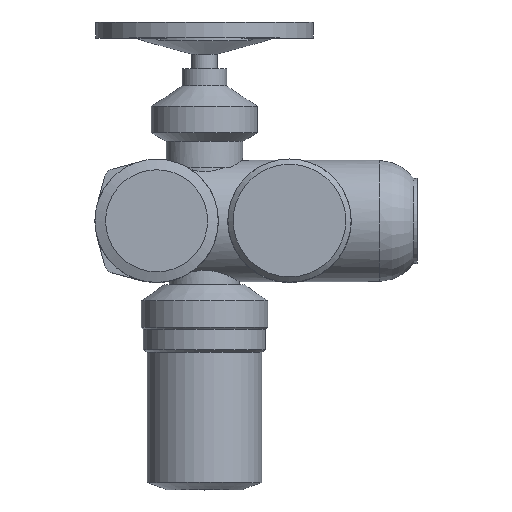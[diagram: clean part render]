
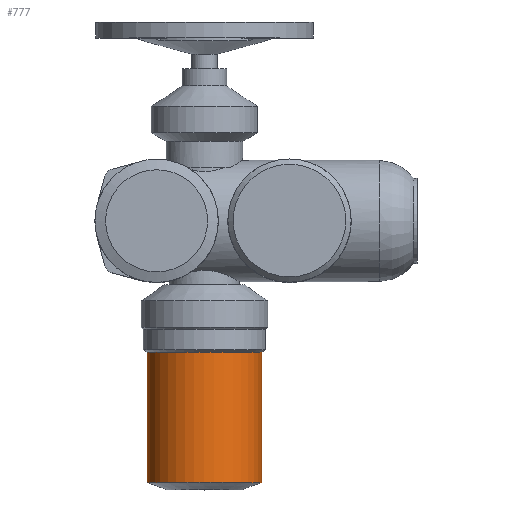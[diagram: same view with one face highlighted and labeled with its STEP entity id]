
A CAD part, top view. The second image highlights one B-rep face of the part: STEP entity #777.
In plain terms, the highlighted cylindrical face has radius 54 mm (diameter 108 mm), a full revolution.
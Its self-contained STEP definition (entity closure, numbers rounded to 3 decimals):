
#777=ADVANCED_FACE('',(#1447,#1449),#1451,.T.);
#1447=FACE_OUTER_BOUND('',#1448,.T.);
#1448=EDGE_LOOP('',(#1835));
#1449=FACE_OUTER_BOUND('',#1450,.T.);
#1450=EDGE_LOOP('',(#1836));
#1451=CYLINDRICAL_SURFACE('',#1452,54.);
#1452=AXIS2_PLACEMENT_3D('',#1453,#1454,#1455);
#1453=CARTESIAN_POINT('',(0.,-246.085,0.));
#1454=DIRECTION('',(0.,1.,0.));
#1455=DIRECTION('',(0.,0.,1.));
#1835=ORIENTED_EDGE('',*,*,#2021,.F.);
#1836=ORIENTED_EDGE('',*,*,#2022,.T.);
#2021=EDGE_CURVE('',#2338,#2338,#2339,.T.);
#2022=EDGE_CURVE('',#2340,#2340,#2341,.T.);
#2338=VERTEX_POINT('',#4175);
#2339=CIRCLE('',#4176,54.);
#2340=VERTEX_POINT('',#4180);
#2341=CIRCLE('',#4181,54.);
#4175=CARTESIAN_POINT('',(0.,-123.505,54.));
#4176=AXIS2_PLACEMENT_3D('',#4177,#4178,#4179);
#4177=CARTESIAN_POINT('',(0.,-123.505,0.));
#4178=DIRECTION('',(0.,1.,0.));
#4179=DIRECTION('',(0.,0.,1.));
#4180=CARTESIAN_POINT('',(0.,-246.085,54.));
#4181=AXIS2_PLACEMENT_3D('',#4182,#4183,#4184);
#4182=CARTESIAN_POINT('',(0.,-246.085,0.));
#4183=DIRECTION('',(0.,1.,0.));
#4184=DIRECTION('',(0.,0.,1.));
